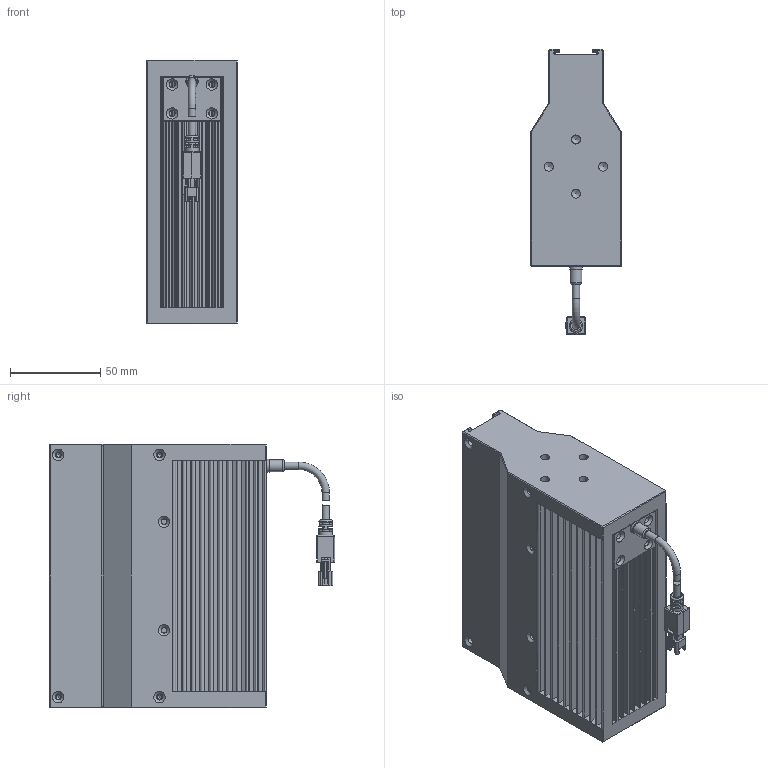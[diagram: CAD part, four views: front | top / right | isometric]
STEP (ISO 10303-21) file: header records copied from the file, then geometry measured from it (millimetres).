
FILE_DESCRIPTION (( 'STEP AP203' ), '1' );
FILE_NAME ('OPT-LSNL146-W-V1.0尨砩芞.STEP', '2025-02-17T08:42:27', ( '' ), ( '' ), 'SwSTEP 2.0', 'SolidWorks 2016', '' );
FILE_SCHEMA (( 'CONFIG_CONTROL_DESIGN' ));
Length unit declared in the file: millimetre
Products named in the file (1): OPT-LSNL146-W-V1.0尨砩芞
Bounding box: 50.02 x 158 x 146 mm (x, y, z)
Volume: 543728 mm3; surface area: 178122 mm2
Topology: 8 solids, 15 shells, 987 faces, 2715 edges, 1745 vertices
Faces by surface type: plane 590, cylinder 324, cone 44, bspline 21, torus 8
Full cylindrical faces by diameter (mm): 1.1 x2, 1.4 x2, 2.5 x10, 3 x8, 3.4 x16, 3.5 x1, 4.1 x4, 5 x8, 5.8 x1, 6.5 x1, 7 x1, 7.5 x1
Entity records: 33520 total; most frequent: CARTESIAN_POINT 9510, ORIENTED_EDGE 5100, DIRECTION 4660, EDGE_CURVE 2550, VERTEX_POINT 1690, VECTOR 1648, LINE 1648, AXIS2_PLACEMENT_3D 1506
